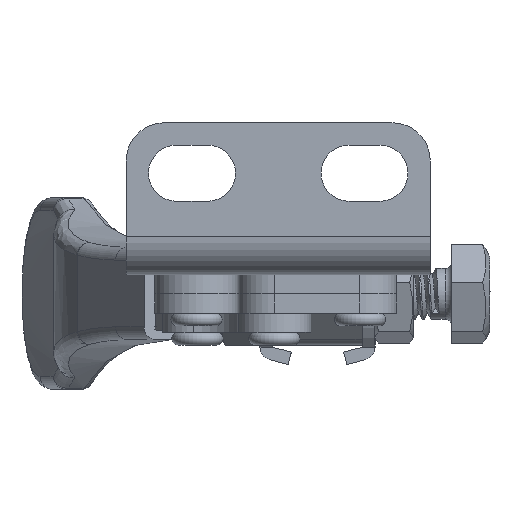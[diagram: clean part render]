
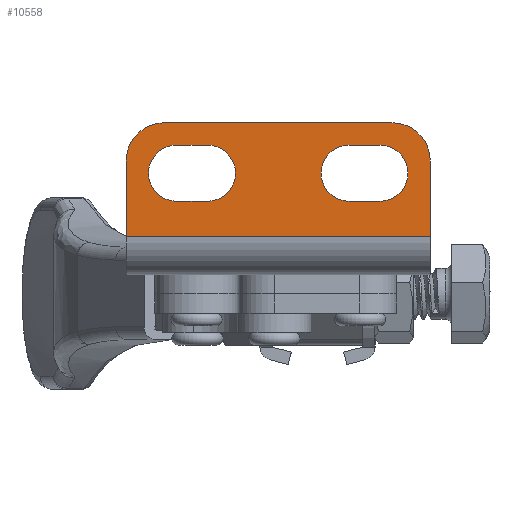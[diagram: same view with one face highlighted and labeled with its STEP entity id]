
A CAD part, front view. The second image highlights one B-rep face of the part: STEP entity #10558.
In plain terms, the highlighted planar face has unit normal (0, -1, 0).
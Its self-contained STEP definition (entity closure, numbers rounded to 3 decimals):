
#871=FACE_BOUND('',#1974,.T.);
#872=FACE_BOUND('',#1975,.T.);
#1356=FACE_OUTER_BOUND('',#1973,.T.);
#1973=EDGE_LOOP('',(#8844,#8845,#8846,#8847,#8848,#8849));
#1974=EDGE_LOOP('',(#8850,#8851,#8852,#8853));
#1975=EDGE_LOOP('',(#8854,#8855,#8856,#8857));
#2714=LINE('',#32613,#3560);
#2752=LINE('',#33669,#3598);
#2797=LINE('',#34252,#3643);
#2800=LINE('',#34260,#3646);
#2801=LINE('',#34264,#3647);
#2802=LINE('',#34268,#3648);
#2803=LINE('',#34272,#3649);
#2804=LINE('',#34276,#3650);
#3560=VECTOR('',#12705,1000.);
#3598=VECTOR('',#12805,1000.);
#3643=VECTOR('',#12856,1000.);
#3646=VECTOR('',#12863,1000.);
#3647=VECTOR('',#12866,1000.);
#3648=VECTOR('',#12869,1000.);
#3649=VECTOR('',#12872,1000.);
#3650=VECTOR('',#12875,1000.);
#4015=CIRCLE('',#11289,3.);
#4016=CIRCLE('',#11290,3.);
#4017=CIRCLE('',#11291,2.2);
#4018=CIRCLE('',#11292,2.2);
#4019=CIRCLE('',#11293,2.2);
#4020=CIRCLE('',#11294,2.2);
#4798=VERTEX_POINT('',#32609);
#4799=VERTEX_POINT('',#32611);
#4824=VERTEX_POINT('',#33668);
#4894=VERTEX_POINT('',#34251);
#4896=VERTEX_POINT('',#34257);
#4897=VERTEX_POINT('',#34259);
#4898=VERTEX_POINT('',#34262);
#4899=VERTEX_POINT('',#34263);
#4900=VERTEX_POINT('',#34265);
#4901=VERTEX_POINT('',#34267);
#4902=VERTEX_POINT('',#34270);
#4903=VERTEX_POINT('',#34271);
#4904=VERTEX_POINT('',#34273);
#4905=VERTEX_POINT('',#34275);
#6129=EDGE_CURVE('',#4798,#4799,#2714,.T.);
#6203=EDGE_CURVE('',#4824,#4798,#2752,.T.);
#6275=EDGE_CURVE('',#4799,#4894,#2797,.T.);
#6278=EDGE_CURVE('',#4894,#4896,#4015,.T.);
#6279=EDGE_CURVE('',#4896,#4897,#2800,.T.);
#6280=EDGE_CURVE('',#4897,#4824,#4016,.T.);
#6281=EDGE_CURVE('',#4898,#4899,#2801,.T.);
#6282=EDGE_CURVE('',#4900,#4898,#4017,.T.);
#6283=EDGE_CURVE('',#4901,#4900,#2802,.T.);
#6284=EDGE_CURVE('',#4899,#4901,#4018,.T.);
#6285=EDGE_CURVE('',#4902,#4903,#2803,.T.);
#6286=EDGE_CURVE('',#4904,#4902,#4019,.T.);
#6287=EDGE_CURVE('',#4905,#4904,#2804,.T.);
#6288=EDGE_CURVE('',#4903,#4905,#4020,.T.);
#8844=ORIENTED_EDGE('',*,*,#6203,.T.);
#8845=ORIENTED_EDGE('',*,*,#6129,.T.);
#8846=ORIENTED_EDGE('',*,*,#6275,.T.);
#8847=ORIENTED_EDGE('',*,*,#6278,.T.);
#8848=ORIENTED_EDGE('',*,*,#6279,.T.);
#8849=ORIENTED_EDGE('',*,*,#6280,.T.);
#8850=ORIENTED_EDGE('',*,*,#6281,.F.);
#8851=ORIENTED_EDGE('',*,*,#6282,.F.);
#8852=ORIENTED_EDGE('',*,*,#6283,.F.);
#8853=ORIENTED_EDGE('',*,*,#6284,.F.);
#8854=ORIENTED_EDGE('',*,*,#6285,.F.);
#8855=ORIENTED_EDGE('',*,*,#6286,.F.);
#8856=ORIENTED_EDGE('',*,*,#6287,.F.);
#8857=ORIENTED_EDGE('',*,*,#6288,.F.);
#10108=PLANE('',#11288);
#10558=ADVANCED_FACE('',(#1356,#871,#872),#10108,.T.);
#11288=AXIS2_PLACEMENT_3D('',#34256,#12859,#12860);
#11289=AXIS2_PLACEMENT_3D('',#34258,#12861,#12862);
#11290=AXIS2_PLACEMENT_3D('',#34261,#12864,#12865);
#11291=AXIS2_PLACEMENT_3D('',#34266,#12867,#12868);
#11292=AXIS2_PLACEMENT_3D('',#34269,#12870,#12871);
#11293=AXIS2_PLACEMENT_3D('',#34274,#12873,#12874);
#11294=AXIS2_PLACEMENT_3D('',#34277,#12876,#12877);
#12705=DIRECTION('',(1.,0.,0.));
#12805=DIRECTION('',(0.,0.,-1.));
#12856=DIRECTION('',(0.,0.,1.));
#12859=DIRECTION('center_axis',(0.,-1.,0.));
#12860=DIRECTION('ref_axis',(0.,0.,-1.));
#12861=DIRECTION('center_axis',(0.,-1.,0.));
#12862=DIRECTION('ref_axis',(0.,0.,-1.));
#12863=DIRECTION('',(-1.,0.,0.));
#12864=DIRECTION('center_axis',(0.,-1.,0.));
#12865=DIRECTION('ref_axis',(0.,0.,1.));
#12866=DIRECTION('',(1.,0.,0.));
#12867=DIRECTION('center_axis',(0.,-1.,0.));
#12868=DIRECTION('ref_axis',(0.,0.,1.));
#12869=DIRECTION('',(-1.,0.,0.));
#12870=DIRECTION('center_axis',(0.,-1.,0.));
#12871=DIRECTION('ref_axis',(0.,0.,1.));
#12872=DIRECTION('',(-1.,0.,0.));
#12873=DIRECTION('center_axis',(0.,-1.,0.));
#12874=DIRECTION('ref_axis',(0.,0.,-1.));
#12875=DIRECTION('',(1.,0.,0.));
#12876=DIRECTION('center_axis',(0.,-1.,0.));
#12877=DIRECTION('ref_axis',(0.,0.,-1.));
#32609=CARTESIAN_POINT('',(-11.9,0.,3.));
#32611=CARTESIAN_POINT('',(11.9,0.,3.));
#32613=CARTESIAN_POINT('',(11.9,0.,3.));
#33668=CARTESIAN_POINT('',(-11.9,0.,8.9));
#33669=CARTESIAN_POINT('',(-11.9,0.,0.));
#34251=CARTESIAN_POINT('',(11.9,0.,8.9));
#34252=CARTESIAN_POINT('',(11.9,0.,0.));
#34256=CARTESIAN_POINT('Origin',(8.9,0.,8.9));
#34257=CARTESIAN_POINT('',(8.9,0.,11.9));
#34258=CARTESIAN_POINT('Origin',(8.9,0.,8.9));
#34259=CARTESIAN_POINT('',(-8.9,0.,11.9));
#34260=CARTESIAN_POINT('',(8.9,0.,11.9));
#34261=CARTESIAN_POINT('Origin',(-8.9,0.,8.9));
#34262=CARTESIAN_POINT('',(-7.95,0.,5.75));
#34263=CARTESIAN_POINT('',(-5.55,0.,5.75));
#34264=CARTESIAN_POINT('',(-7.95,0.,5.75));
#34265=CARTESIAN_POINT('',(-7.95,0.,10.15));
#34266=CARTESIAN_POINT('Origin',(-7.95,0.,7.95));
#34267=CARTESIAN_POINT('',(-5.55,0.,10.15));
#34268=CARTESIAN_POINT('',(-7.95,0.,10.15));
#34269=CARTESIAN_POINT('Origin',(-5.55,0.,7.95));
#34270=CARTESIAN_POINT('',(7.95,0.,10.15));
#34271=CARTESIAN_POINT('',(5.55,0.,10.15));
#34272=CARTESIAN_POINT('',(7.95,0.,10.15));
#34273=CARTESIAN_POINT('',(7.95,0.,5.75));
#34274=CARTESIAN_POINT('Origin',(7.95,0.,7.95));
#34275=CARTESIAN_POINT('',(5.55,0.,5.75));
#34276=CARTESIAN_POINT('',(7.95,0.,5.75));
#34277=CARTESIAN_POINT('Origin',(5.55,0.,7.95));
